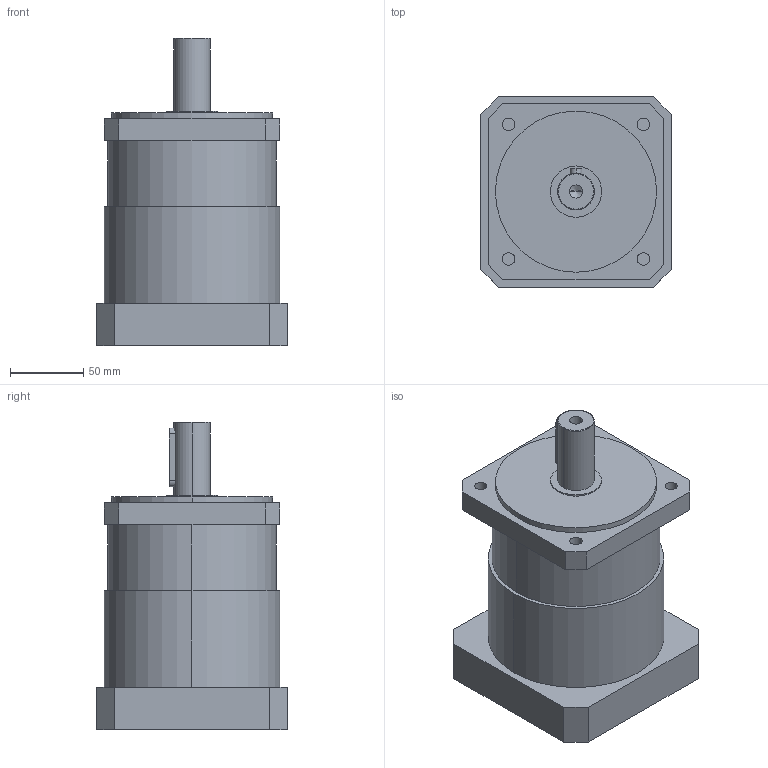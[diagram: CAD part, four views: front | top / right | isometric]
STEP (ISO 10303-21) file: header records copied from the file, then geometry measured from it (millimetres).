
FILE_DESCRIPTION (( 'STEP AP203' ), '1' );
FILE_NAME ('120MM熬厒24P 100W 155R.STEP', '2019-10-25T01:21:48', ( 'China' ), ( 'Home' ), 'SwSTEP 2.0', 'SolidWorks 2016', '' );
FILE_SCHEMA (( 'CONFIG_CONTROL_DESIGN' ));
Length unit declared in the file: millimetre
Products named in the file (1): 120MM熬厒24P 100W 155R
Bounding box: 130 x 130 x 210 mm (x, y, z)
Volume: 1876005.3 mm3; surface area: 122489.5 mm2
Topology: 2 solids, 2 shells, 83 faces, 195 edges, 121 vertices
Faces by surface type: cylinder 39, plane 32, cone 10, bspline 2
Entity records: 2436 total; most frequent: DIRECTION 427, CARTESIAN_POINT 426, ORIENTED_EDGE 370, EDGE_CURVE 185, AXIS2_PLACEMENT_3D 162, VERTEX_POINT 121, EDGE_LOOP 106, VECTOR 103
